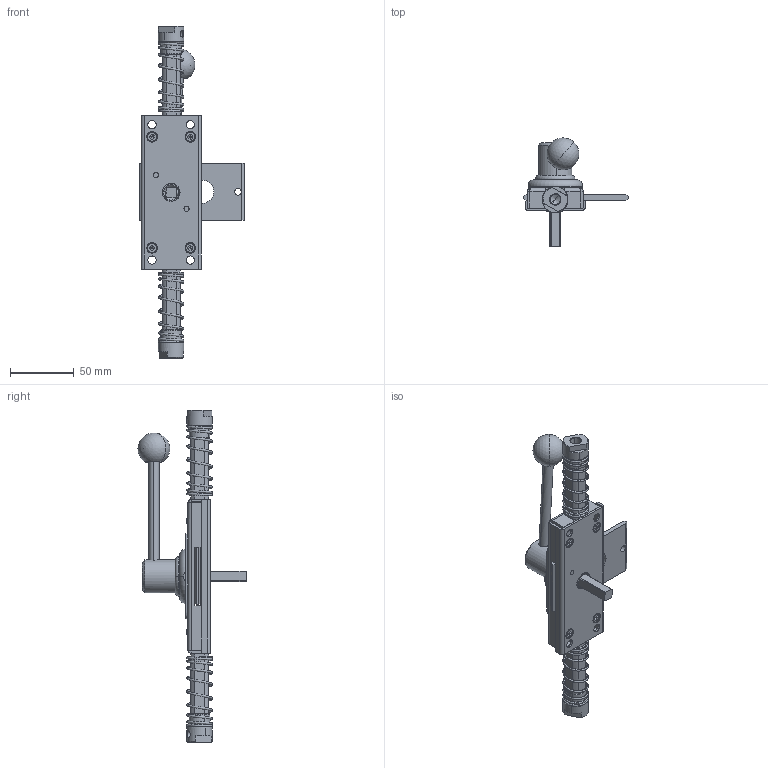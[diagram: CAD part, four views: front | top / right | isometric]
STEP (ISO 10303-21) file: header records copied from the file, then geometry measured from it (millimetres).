
FILE_DESCRIPTION (( 'STEP AP214' ), '1' );
FILE_NAME ('1B.ZWP8.L - zamek wewnetrzny panik ZWP lewy.STEP', '2016-09-07T09:45:00', ( '' ), ( '' ), 'SwSTEP 2.0', 'SolidWorks 2015', '' );
FILE_SCHEMA (( 'AUTOMOTIVE_DESIGN' ));
Length unit declared in the file: millimetre
Products named in the file (27): 1B.ZW.014_K.02; 1B.ZW.002_B; 1B.ZW.015_A; 1B.ZW.016_A; 1B.ZWP8.L - zamek wewnetrzny panik ZWP lewy; 1B.ZW.020_A; 1B.ZW.011.02_K.01; 1B.ZW.011_A; 1B.ZW.011.03_A; 1B.ZW.011.01_A; 1B.ZW.010_A; 1B.ZW.009_A; 1B.ZW.008_A; 1B.ZW.007_A; 1B.ZW.006_A; 1B.ZW.005_B.P; 1B.ZW.005.04_A; 5.SP.001_A; 1B.ZW.005.03_B; M4_M4 x 8; 1B.ZW.005.02_A; 1B.SAP.000.00.03_1B.SAP.000.00.03.D8; 1B.ZW.005.01_A; 1B.ZW.012_A.35; 1B.ZW.003_A; 1B.ZW.013_A; 1B.ZW.001_A
Assembly tree (39 placements, depth 3):
  1B.ZWP8.L - zamek wewnetrzny panik ZWP lewy
    1B.ZW.002_B
    1B.ZW.001_A
    1B.ZW.003_A  x4
    1B.ZW.005_B.P  x2
      1B.ZW.005.01_A
      1B.ZW.005.02_A
      1B.ZW.005.03_B
      1B.ZW.005.04_A
    1B.ZW.006_A
    1B.ZW.007_A
    1B.ZW.008_A
    1B.ZW.009_A
    1B.ZW.010_A
    1B.ZW.011_A
      1B.ZW.011.01_A
      1B.ZW.011.03_A
    1B.ZW.011.02_K.01
    1B.ZW.020_A
    1B.ZW.016_A
    1B.ZW.015_A
    1B.ZW.014_K.02
    1B.ZW.013_A
    1B.ZW.012_A.35
    1B.SAP.000.00.03_1B.SAP.000.00.03.D8  x2
    M4_M4 x 8  x8
    5.SP.001_A  x2
Bounding box: 82 x 84.58 x 259.9 mm (x, y, z)
Volume: 121175.3 mm3; surface area: 95634.1 mm2
Topology: 42 solids, 42 shells, 1044 faces, 2452 edges, 1506 vertices
Faces by surface type: plane 455, cylinder 317, cone 208, torus 40, bspline 22, sphere 2
Entity records: 33246 total; most frequent: CARTESIAN_POINT 16512, DIRECTION 3395, ORIENTED_EDGE 3058, EDGE_CURVE 1529, AXIS2_PLACEMENT_3D 1315, VERTEX_POINT 953, LINE 765, VECTOR 765
